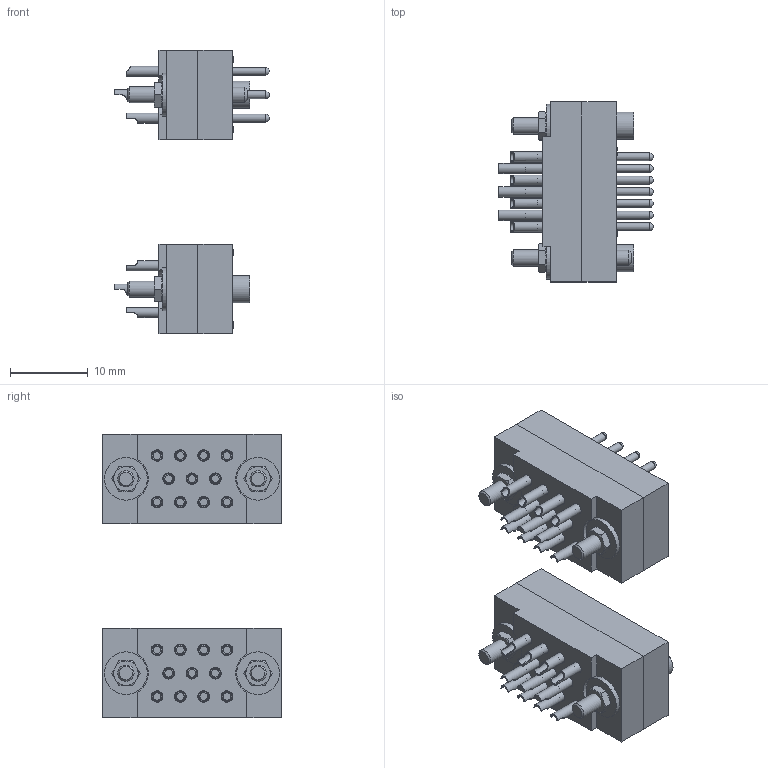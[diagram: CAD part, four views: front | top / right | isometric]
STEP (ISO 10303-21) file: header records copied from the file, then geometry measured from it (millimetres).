
FILE_DESCRIPTION(('STEP AP214'),'1');
FILE_NAME('11 pin connectors.stp','2017-09-01T11:04:51',(' '),(' '),'Spatial InterOp 3D',' ',' ');
FILE_SCHEMA(('automotive_design'));
Length unit declared in the file: millimetre
Products named in the file (35): 11 pin socket; 11 pin socket front; 11 pin socket rear; Alignment pin; Body; Washer : Plain - M2.0 x 0.75; Nut : Standard - M2.0 x 26.162; Alignment socket; 1-4 text0; 5-8 text0; 9-11 text0; 11 pin connectors; 11 pin plug; 11 pin plug front; 11 pin plug rear
Assembly tree (50 placements, depth 4):
  11 pin connectors
    11 pin socket
      11 pin socket front
      11 pin socket rear
      Alignment pin
        Body
        Washer : Plain - M2.0 x 0.75
        Nut : Standard - M2.0 x 26.162
      Alignment socket
        Body
        Washer : Plain - M2.0 x 0.75
        Nut : Standard - M2.0 x 26.162
      (unnamed)  x4
      (unnamed)  x4
      (unnamed)  x3
      1-4 text0
      5-8 text0
      9-11 text0
    11 pin plug
      11 pin plug front
      11 pin plug rear
      Alignment pin
        Body
        Washer : Plain - M2.0 x 0.75
        Nut : Standard - M2.0 x 26.162
      Alignment socket
        Body
        Washer : Plain - M2.0 x 0.75
        Nut : Standard - M2.0 x 26.162
      (unnamed)  x4
      (unnamed)  x4
      (unnamed)  x3
      1-4 text0
      5-8 text0
      9-11 text0
Bounding box: 19.9 x 23.1 x 36.5 mm (x, y, z)
Volume: 4914.7 mm3; surface area: 7690.5 mm2
Topology: 52 solids, 52 shells, 1291 faces, 3236 edges, 2138 vertices
Faces by surface type: plane 961, cylinder 238, cone 81, sphere 11
Full cylindrical faces by diameter (mm): 1 x44, 1.3 x44, 1.5 x22, 1.6 x4, 1.97 x2, 2 x54, 2.006 x12, 2.1 x4, 2.3 x4, 2.4 x10, 3.5 x2, 3.55 x2, 4 x4, 5.5 x4
Entity records: 42576 total; most frequent: CARTESIAN_POINT 6894, ORIENTED_EDGE 5222, DIRECTION 5094, EDGE_CURVE 2611, LINE 2128, VECTOR 2128, VERTEX_POINT 1827, AXIS2_PLACEMENT_3D 1483
